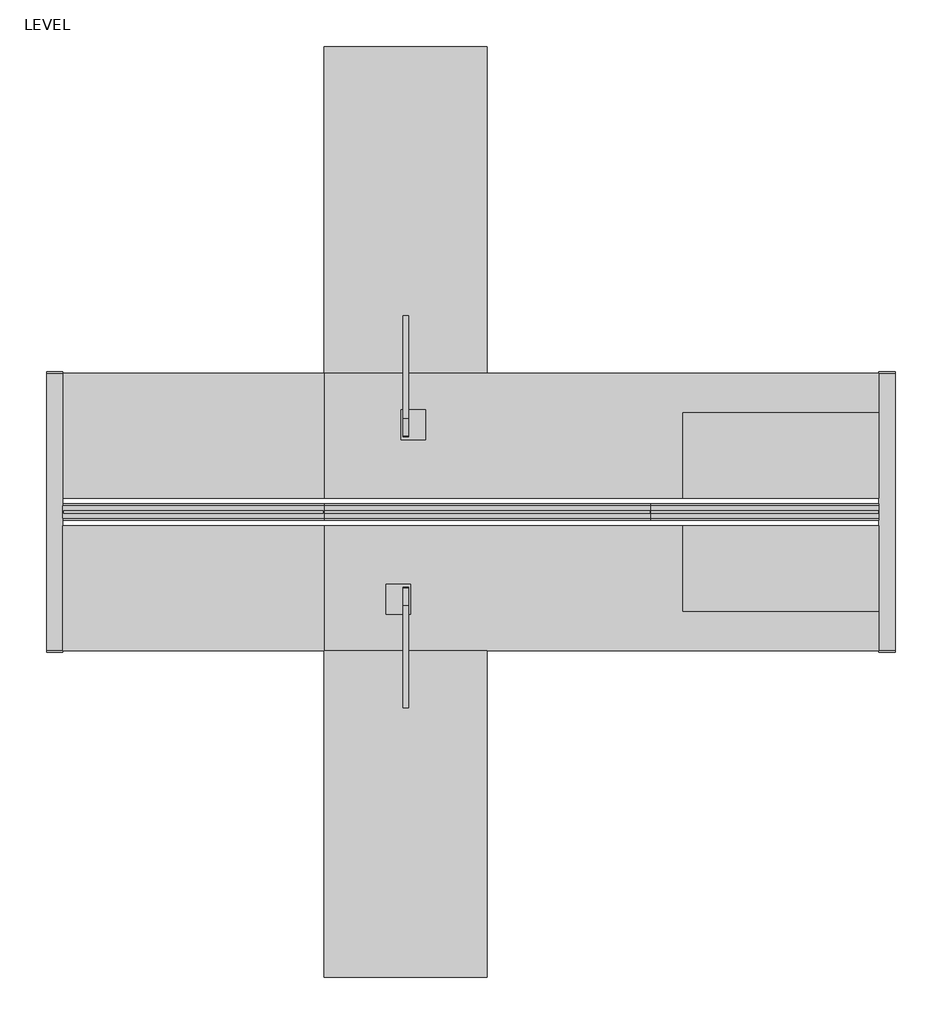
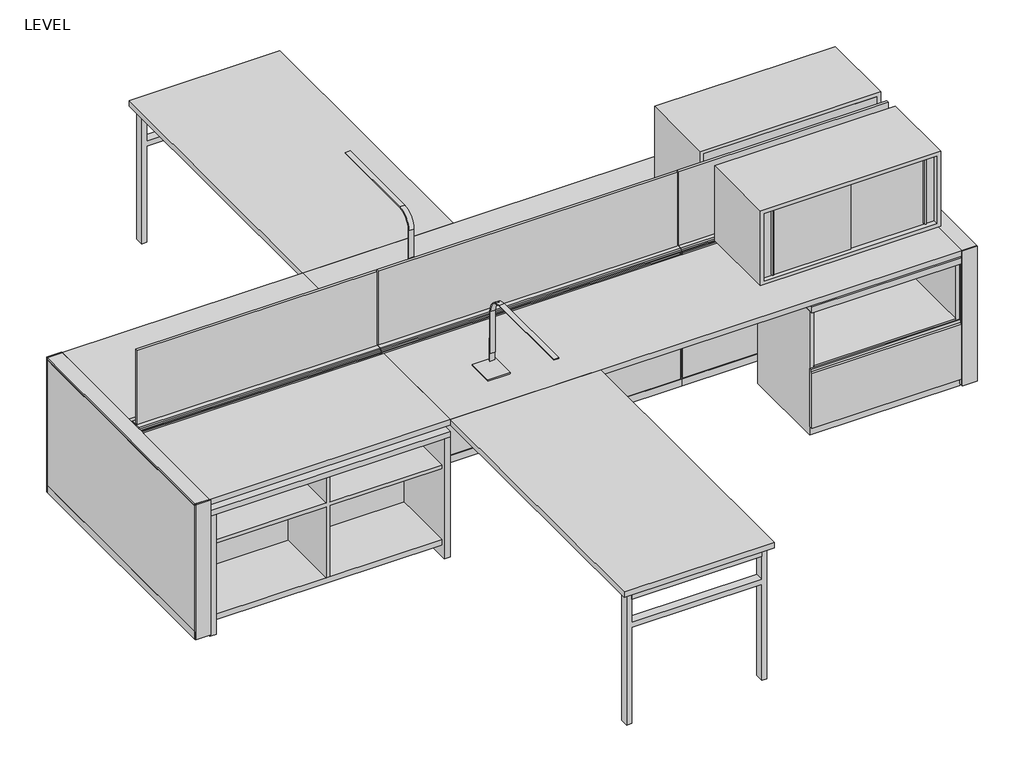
# One storey, incomplete: 20 furniture elements, 2 light fixtures.
"""IFC4 building model written with IfcOpenShell, lengths in millimetres."""

from ifc_helpers import new_model, si_unit, origin, place, context, project, spatial, transform, mapped, element, save
from components import furniture_efd685cc, furniture_8c20b5aa, furniture_7863e3fc, furniture_333ed768, furniture_39dd54f5, furniture_297744aa, furniture_226d6ea9, furniture_e6a05165, furniture_8b97164d, furniture_0efe32c8, furniture_33d8614d, furniture_d4bf61b1, furniture_7b26bb9c, furniture_50d83fae, furniture_8fc70b79, furniture_aa3926b8, furniture_870cb17b, furniture_246bb295, furniture_8de63019, furniture_e7f15b33, freestanding_pivot_89a99560

model = new_model("IFC4")

# Units and contexts
model_context = context("Model", 3, world=origin())
ifc_project = project(units=[si_unit("LENGTHUNIT", "METRE", prefix="MILLI")], contexts=[model_context])

# Site, building, storey
site = spatial("IfcSite", under=ifc_project)
building = spatial("IfcBuilding", under=site)
storey = spatial("IfcBuildingStorey", under=building, Name="LEVEL", Elevation=0.0)

# Furniture
placement = place(None, origin())
furniture_shape = furniture_efd685cc(model_context)
element("IfcFurniture", 1, ObjectType="Haworth_XSeries-Combo-Open_Shelf : 30\" Width", at=placement, inside=storey, context=model_context, shape_type="MappedRepresentation", body=[
    mapped(furniture_shape, transform((12727.8367319, -37859.9923494, 0.0), x_axis=(1.0, 0.0, 0.0), y_axis=(0.0, 1.0, 0.0), z_axis=(0.0, 0.0, 1.0))),
])
furniture_2_shape = furniture_8c20b5aa(model_context)
element("IfcFurniture", 2, ObjectType="Haworth_XSeries-Combo-Open_Shelf : 30\" Width", at=placement, inside=storey, context=model_context, shape_type="MappedRepresentation", body=[
    mapped(furniture_2_shape, transform((12727.8367319, -37517.0923494, 0.0), x_axis=(1.0, 0.0, 0.0), y_axis=(0.0, 1.0, 0.0), z_axis=(0.0, 0.0, 1.0))),
])
furniture_3_shape = furniture_7863e3fc(model_context)
element("IfcFurniture", 3, ObjectType="Haworth_Compose-Panel-Benching : 42\" Width", at=placement, inside=storey, context=model_context, shape_type="MappedRepresentation", body=[
    mapped(furniture_3_shape, transform((12571.4089418, -37688.5423494, 0.0), x_axis=(1.0, 0.0, 0.0), y_axis=(0.0, 1.0, 0.0), z_axis=(0.0, 0.0, 1.0))),
])
furniture_4_shape = furniture_333ed768(model_context)
element("IfcFurniture", 4, ObjectType="Haworth_XSeries-Active-Bookcase : 48\" Width", at=placement, inside=storey, context=model_context, shape_type="MappedRepresentation", body=[
    mapped(furniture_4_shape, transform((9906.8492319, -37412.3173494, 0.0), x_axis=(1.0, 0.0, 0.0), y_axis=(0.0, 1.0, 0.0), z_axis=(0.0, 0.0, 1.0))),
])
furniture_5_shape = furniture_39dd54f5(model_context)
element("IfcFurniture", 5, ObjectType="Haworth_Compose-Panel-Benching : 48\" Width", at=placement, inside=storey, context=model_context, shape_type="MappedRepresentation", body=[
    mapped(furniture_5_shape, transform((9904.4089418, -37688.5423494, 0.0), x_axis=(1.0, 0.0, 0.0), y_axis=(0.0, 1.0, 0.0), z_axis=(0.0, 0.0, 1.0))),
])
furniture_6_shape = furniture_297744aa(model_context)
element("IfcFurniture", 6, ObjectType="Haworth_XSeries-Active-Bookcase : 48\" Width", at=placement, inside=storey, context=model_context, shape_type="MappedRepresentation", body=[
    mapped(furniture_6_shape, transform((9906.8492319, -37964.7673494, 0.0), x_axis=(1.0, 0.0, 0.0), y_axis=(0.0, 1.0, 0.0), z_axis=(0.0, 0.0, 1.0))),
])
furniture_7_shape = furniture_226d6ea9(model_context)
element("IfcFurniture", 7, ObjectType="Haworth_Compose-Panel-Benching : 51\" Width", at=placement, inside=storey, context=model_context, shape_type="MappedRepresentation", body=[
    mapped(furniture_7_shape, transform((9259.1492319, -37690.9826396, 0.0), x_axis=(0.0, 1.0, 0.0), y_axis=(-1.0, 0.0, 0.0), z_axis=(0.0, 0.0, 1.0))),
])
furniture_8_shape = furniture_e6a05165(model_context)
element("IfcFurniture", 8, ObjectType="Haworth_Compose-Panel-Benching : 51\" Width", at=placement, inside=storey, context=model_context, shape_type="MappedRepresentation", body=[
    mapped(furniture_8_shape, transform((13145.3492319, -37690.9826396, 0.0), x_axis=(0.0, 1.0, 0.0), y_axis=(-1.0, 0.0, 0.0), z_axis=(0.0, 0.0, 1.0))),
])
furniture_9_shape = furniture_8b97164d(model_context)
element("IfcFurniture", 9, ObjectType="Haworth_Compose-Panel-Benching : 60\" Width", at=placement, inside=storey, context=model_context, shape_type="MappedRepresentation", body=[
    mapped(furniture_9_shape, transform((11276.0089418, -37688.5423494, 0.0), x_axis=(1.0, 0.0, 0.0), y_axis=(0.0, 1.0, 0.0), z_axis=(0.0, 0.0, 1.0))),
])
furniture_10_shape = furniture_0efe32c8(model_context)
element("IfcFurniture", 10, ObjectType="Haworth_Convergent-Rectangular : 60\" x 30\"", at=placement, inside=storey, context=model_context, shape_type="MappedRepresentation", body=[
    mapped(furniture_10_shape, transform((10897.4492319, -36278.8423494, 0.0), x_axis=(0.0, -1.0, 0.0), y_axis=(1.0, 0.0, 0.0), z_axis=(0.0, 0.0, 1.0))),
])
furniture_11_shape = furniture_33d8614d(model_context)
element("IfcFurniture", 11, ObjectType="Haworth_Convergent-Rectangular : 60\" x 30\"", at=placement, inside=storey, context=model_context, shape_type="MappedRepresentation", body=[
    mapped(furniture_11_shape, transform((10897.4492319, -39098.2423494, 0.0), x_axis=(0.0, 1.0, 0.0), y_axis=(-1.0, 0.0, 0.0), z_axis=(0.0, 0.0, 1.0))),
])
furniture_12_shape = furniture_d4bf61b1(model_context)
element("IfcFurniture", 12, ObjectType="Haworth_Compose-Panel-Glass_Frameless_Stack : 42\" x 16\"", at=placement, inside=storey, context=model_context, shape_type="MappedRepresentation", body=[
    mapped(furniture_12_shape, transform((12571.4089418, -37667.58299, 0.0), x_axis=(1.0, 0.0, 0.0), y_axis=(0.0, 1.0, 0.0), z_axis=(0.0, 0.0, 1.0))),
])
furniture_13_shape = furniture_7b26bb9c(model_context)
element("IfcFurniture", 13, ObjectType="Haworth_Compose-Panel-Glass_Frameless_Stack : 48\" x 16\"", at=placement, inside=storey, context=model_context, shape_type="MappedRepresentation", body=[
    mapped(furniture_13_shape, transform((9904.4089418, -37667.58299, 0.0), x_axis=(1.0, 0.0, 0.0), y_axis=(0.0, 1.0, 0.0), z_axis=(0.0, 0.0, 1.0))),
])
furniture_14_shape = furniture_50d83fae(model_context)
element("IfcFurniture", 14, ObjectType="Haworth_Compose-Panel-Glass_Frameless_Stack : 60\" x 16\"", at=placement, inside=storey, context=model_context, shape_type="MappedRepresentation", body=[
    mapped(furniture_14_shape, transform((11276.0089418, -37667.58299, 0.0), x_axis=(1.0, 0.0, 0.0), y_axis=(0.0, 1.0, 0.0), z_axis=(0.0, 0.0, 1.0))),
])
furniture_15_shape = furniture_8fc70b79(model_context)
element("IfcFurniture", 15, ObjectType="Haworth_Patterns-Storage-Box : 36\" Width", at=placement, inside=storey, context=model_context, shape_type="MappedRepresentation", body=[
    mapped(furniture_15_shape, transform((12484.9492319, -37752.0423494, 0.0), x_axis=(1.0, 0.0, 0.0), y_axis=(0.0, 1.0, 0.0), z_axis=(0.0, 0.0, 1.0))),
])
furniture_16_shape = furniture_aa3926b8(model_context)
element("IfcFurniture", 16, ObjectType="Haworth_Patterns-Storage-Box : 36\" Width", at=placement, inside=storey, context=model_context, shape_type="MappedRepresentation", body=[
    mapped(furniture_16_shape, transform((12484.9492319, -37625.0423494, 0.0), x_axis=(1.0, 0.0, 0.0), y_axis=(0.0, 1.0, 0.0), z_axis=(0.0, 0.0, 1.0))),
])
furniture_17_shape = furniture_870cb17b(model_context)
element("IfcFurniture", 17, ObjectType="Haworth_Worksurface-Rectangular : 102\" x 23\"", at=placement, inside=storey, context=model_context, shape_type="MappedRepresentation", body=[
    mapped(furniture_17_shape, transform((11811.8492319, -38044.1423494, 0.0), x_axis=(-1.0, 0.0, 0.0), y_axis=(0.0, -1.0, 0.0), z_axis=(0.0, 0.0, 1.0))),
])
furniture_18_shape = furniture_246bb295(model_context)
element("IfcFurniture", 18, ObjectType="Haworth_Worksurface-Rectangular : 102\" x 23\"", at=placement, inside=storey, context=model_context, shape_type="MappedRepresentation", body=[
    mapped(furniture_18_shape, transform((11811.8492319, -37332.9423494, 0.0), x_axis=(-1.0, 0.0, 0.0), y_axis=(0.0, -1.0, 0.0), z_axis=(0.0, 0.0, 1.0))),
])
furniture_19_shape = furniture_8de63019(model_context)
element("IfcFurniture", 19, ObjectType="Haworth_Worksurface-Rectangular : 48\" x 23\"", at=placement, inside=storey, context=model_context, shape_type="MappedRepresentation", body=[
    mapped(furniture_19_shape, transform((9906.8492319, -38044.1423494, 0.0), x_axis=(-1.0, 0.0, 0.0), y_axis=(0.0, -1.0, 0.0), z_axis=(0.0, 0.0, 1.0))),
])
furniture_20_shape = furniture_e7f15b33(model_context)
element("IfcFurniture", 20, ObjectType="Haworth_Worksurface-Rectangular : 48\" x 23\"", at=placement, inside=storey, context=model_context, shape_type="MappedRepresentation", body=[
    mapped(furniture_20_shape, transform((9906.8492319, -37332.9423494, 0.0), x_axis=(-1.0, 0.0, 0.0), y_axis=(0.0, -1.0, 0.0), z_axis=(0.0, 0.0, 1.0))),
])

# Light fixtures
freestanding_pivot_shape = freestanding_pivot_89a99560(model_context)
element("IfcLightFixture", 21, ObjectType="Haworth_Lighting-LIM : Freestanding Pivot", at=placement, inside=storey, context=model_context, shape_type="MappedRepresentation", body=[
    mapped(freestanding_pivot_shape, transform((11121.7024404, -38073.5709795, 0.0), x_axis=(0.0, 1.0, 0.0), y_axis=(-1.0, 0.0, 0.0), z_axis=(0.0, 0.0, 1.0))),
])
element("IfcLightFixture", 22, ObjectType="Haworth_Lighting-LIM : Freestanding Pivot", at=placement, inside=storey, context=model_context, shape_type="MappedRepresentation", body=[
    mapped(freestanding_pivot_shape, transform((10673.1960234, -37303.5137194, 0.0), x_axis=(0.0, -1.0000000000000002, 0.0), y_axis=(1.0000000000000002, 0.0, 0.0), z_axis=(0.0, 0.0, 1.0))),
])

save(model, "model.ifc")
